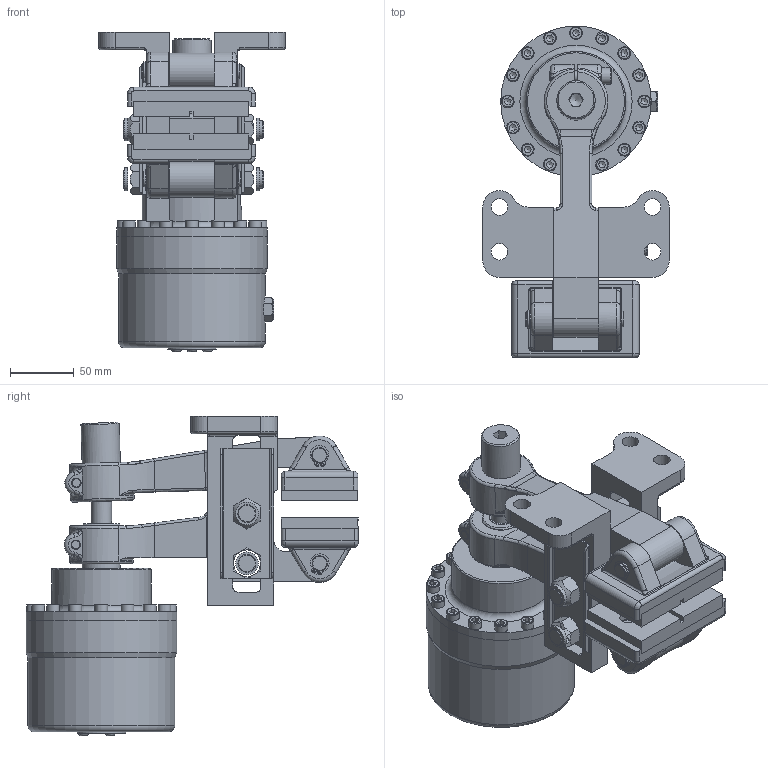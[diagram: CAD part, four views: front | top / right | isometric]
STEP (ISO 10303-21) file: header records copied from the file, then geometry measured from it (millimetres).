
FILE_DESCRIPTION(/* description */ ('','CAx-IF Rec.Pracs.---Representation and Presentation of Product Manufacturing Information (PMI)---4.0---2014-10-13'),/* implementation_level */ '2;1');
FILE_NAME(/* name */ 'X:\INVENTOR\DISEGNI\19_Pinze\STEP x Sito\OLEO-NEGATIVE\19_46_340_03 POHP-N340_12,7.stp',/* time_stamp */ '2018-02-23T16:32:58+01:00',/* author */ ('stefano'),/* organization */ (''),/* preprocessor_version */ 'ST-DEVELOPER v17',/* originating_system */ 'Autodesk Inventor 2018',/* authorisation */ '');
FILE_SCHEMA (('AP242_MANAGED_MODEL_BASED_3D_ENGINEERING_MIM_LF { 1 0 10303 442 1 1 4 }'));
Length unit declared in the file: millimetre
Products named in the file (1): 19_46_340_03 POHP-N340_12,7_Substitute_3
Bounding box: 146 x 260 x 250.55 mm (x, y, z)
Volume: 1959266 mm3; surface area: 323044.1 mm2
Topology: 1 solids, 1 shells, 1028 faces, 2842 edges, 1858 vertices
Faces by surface type: plane 500, cylinder 268, cone 101, torus 82, bspline 76, sphere 1
Full cylindrical faces by diameter (mm): 1.7 x8, 4 x2, 4.917 x2, 5 x2, 6 x2, 6.5 x6, 7.6 x3, 8 x3, 8.5 x2, 9.5 x2, 10 x19, 10.5 x1, 11.445 x2, 11.5 x4, 12 x15, 13 x10, 13.5 x2, 14 x4, 15 x1, 16 x4, 17.85 x4, 19 x1, 19.5 x12, 22 x1, 22.6 x1, 24 x1, 25 x1, 30 x2, 35 x1, 38 x1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
Entity records: 36934 total; most frequent: CARTESIAN_POINT 9795, ORIENTED_EDGE 5596, DIRECTION 5444, EDGE_CURVE 2798, AXIS2_PLACEMENT_3D 2106, VERTEX_POINT 1858, LINE 1232, VECTOR 1232
